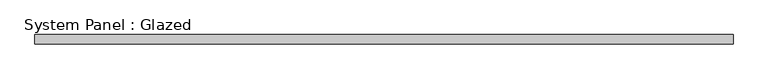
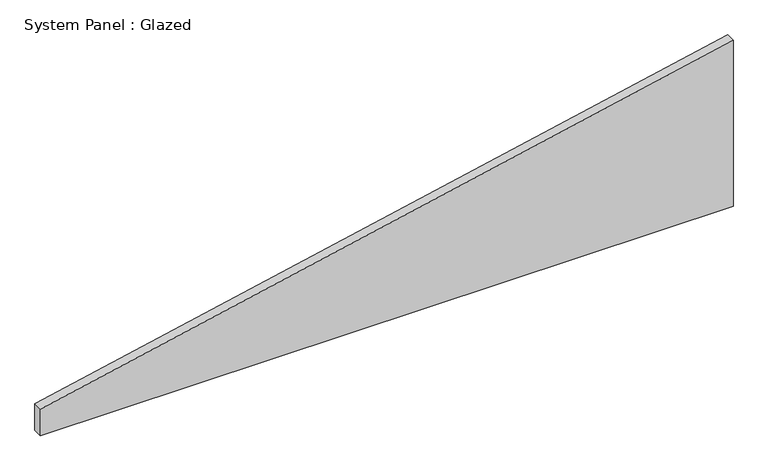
"""IFC4 building model written with IfcOpenShell, lengths in millimetres: plate geometry, System Panel : Glazed."""

from ifc_helpers import new_model, si_unit, frame, origin, place, context, project, spatial, polyline, outline, extrude, source, transform, mapped, element, save


def system_panel_glazed_7808aa91(model_context):
    return source(origin(), model_context, "Body", "SweptSolid", [
        extrude(outline(polyline([(0.0, -912.5), (0.0, 912.5), (462.3105216, 912.5), (74.3947966, -912.5), (0.0, -912.5)])), frame((0.0, 24.5, 0.0), z_axis=(0.0, 1.0, 0.0), x_axis=(0.0, 0.0, 1.0)), (0.0, 0.0, 1.0), 25.0),
    ])


if __name__ == "__main__":
    model = new_model("IFC4")
    model_context = context("Model", 3, world=origin())
    ifc_project = project(units=[si_unit("LENGTHUNIT", "METRE", prefix="MILLI")], contexts=[model_context])
    site = spatial("IfcSite", under=ifc_project)
    building = spatial("IfcBuilding", under=site)
    placement = place(None, origin())
    system_panel_glazed_shape = system_panel_glazed_7808aa91(model_context)
    element("IfcPlate", 1, ObjectType="System Panel : Glazed", at=placement, inside=building, context=model_context, shape_type="MappedRepresentation", body=[
        mapped(system_panel_glazed_shape, transform((0.0, 0.0, 0.0), x_axis=(1.0, 0.0, 0.0), y_axis=(0.0, 1.0, 0.0), z_axis=(0.0, 0.0, 1.0))),
    ])
    save(model, "model.ifc")
